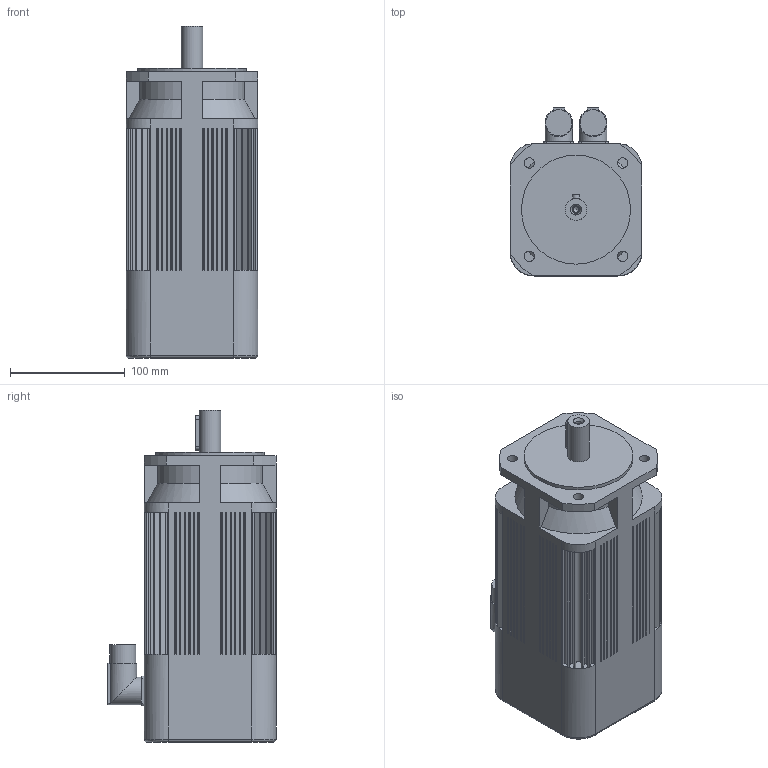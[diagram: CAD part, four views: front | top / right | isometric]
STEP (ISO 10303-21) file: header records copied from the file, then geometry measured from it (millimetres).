
FILE_DESCRIPTION(/* description */ (''),/* implementation_level */ '2;1');
FILE_NAME(/* name */ 'C:\Users\Pastrello_Ylenia\Desktop\Modelli 3D Serad\B63I\B6306Ixx6A052000.stp',/* time_stamp */ '2015-06-12T14:51:23+02:00',/* author */ ('Pastrello_Ylenia'),/* organization */ (''),/* preprocessor_version */ 'ST-DEVELOPER v15.6',/* originating_system */ 'Autodesk Inventor 2015',/* authorisation */ '');
FILE_SCHEMA (('AUTOMOTIVE_DESIGN { 1 0 10303 214 3 1 1 }'));
Length unit declared in the file: millimetre
Products named in the file (1): B6306Ixx6A052000
Bounding box: 115 x 146.5 x 289.5 mm (x, y, z)
Volume: 3068530.6 mm3; surface area: 182096.4 mm2
Topology: 1 solids, 1 shells, 451 faces, 1104 edges, 712 vertices
Faces by surface type: plane 352, cylinder 88, cone 7, torus 4
Full cylindrical faces by diameter (mm): 4.917 x1, 6.4 x1, 9 x4, 19 x1, 22.7 x2, 24 x2, 95 x1
Entity records: 13128 total; most frequent: CARTESIAN_POINT 2294, DIRECTION 2278, ORIENTED_EDGE 2168, EDGE_CURVE 1084, LINE 774, VECTOR 774, AXIS2_PLACEMENT_3D 752, VERTEX_POINT 708
